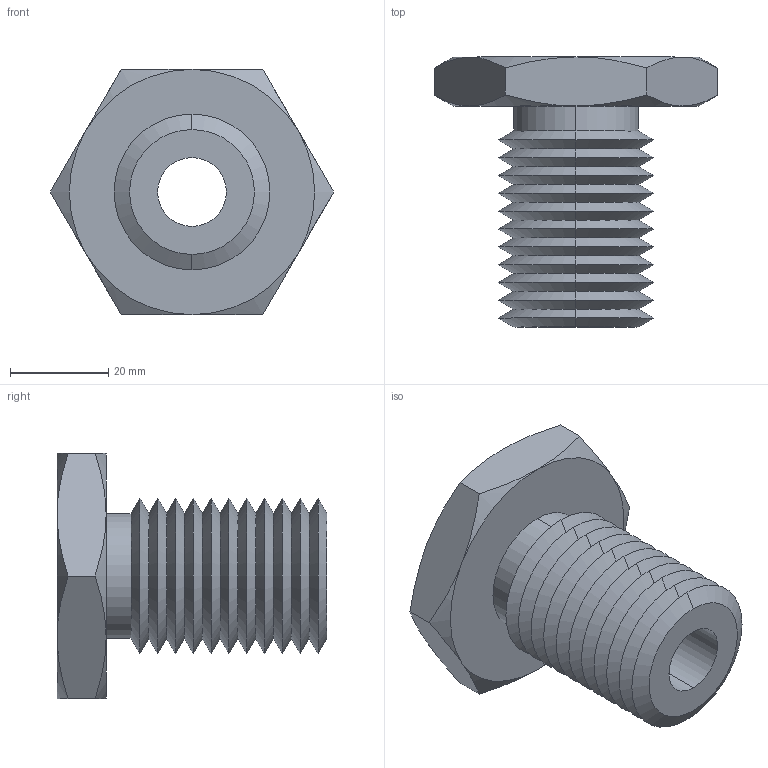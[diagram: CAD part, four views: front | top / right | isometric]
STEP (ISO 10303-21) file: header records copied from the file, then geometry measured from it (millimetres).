
FILE_DESCRIPTION (( 'STEP AP203' ), '1' );
FILE_NAME ('63302.W5125_M14x2.step', '2013-12-08T11:57:25', ( 'User' ), ( '' ), 'SwSTEP 2.0', 'SolidWorks 2009', '' );
FILE_SCHEMA (( 'CONFIG_CONTROL_DESIGN' ));
Length unit declared in the file: millimetre
Products named in the file (1): 63302.W5125_M14x2
Bounding box: 57.73 x 55 x 50 mm (x, y, z)
Volume: 41164.5 mm3; surface area: 15506.6 mm2
Topology: 1 solids, 1 shells, 71 faces, 146 edges, 78 vertices
Faces by surface type: cone 58, plane 9, cylinder 4
Entity records: 2039 total; most frequent: CARTESIAN_POINT 480, DIRECTION 332, ORIENTED_EDGE 292, EDGE_CURVE 146, AXIS2_PLACEMENT_3D 138, VERTEX_POINT 78, EDGE_LOOP 74, ADVANCED_FACE 71
